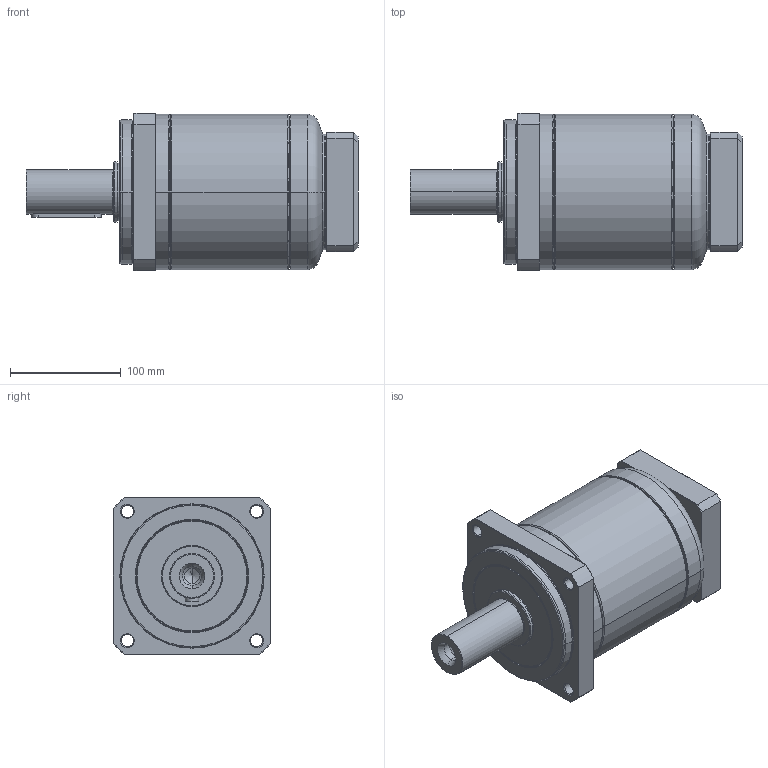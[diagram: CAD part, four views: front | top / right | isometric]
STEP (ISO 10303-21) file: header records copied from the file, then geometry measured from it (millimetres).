
FILE_DESCRIPTION((''),'2;1');
FILE_NAME('PA2-142_2ST_28-P0411600101_ASM','2016-05-11T',('d01943'),(''),'PRO/ENGINEER BY PARAMETRIC TECHNOLOGY CORPORATION, 2008410','PRO/ENGINEER BY PARAMETRIC TECHNOLOGY CORPORATION, 2008410','');
FILE_SCHEMA(('CONFIG_CONTROL_DESIGN'));
Length unit declared in the file: millimetre
Products named in the file (9): P1327510001; P0251500001; P1324500201; P0350500601; P0941502001; P0503600008; P0411600101; P1702500001; PA2-142_2ST_28-P0411600101_ASM
Assembly tree (8 placements, depth 2):
  PA2-142_2ST_28-P0411600101_ASM
    P1327510001
    P0251500001
    P1324500201
    P0350500601
    P0941502001
    P0503600008
    P0411600101
    P1702500001
Bounding box: 299.5 x 142 x 142 mm (x, y, z)
Volume: 2209135.8 mm3; surface area: 339106.7 mm2
Topology: 8 solids, 8 shells, 469 faces, 1024 edges, 590 vertices
Faces by surface type: cone 146, cylinder 133, torus 88, plane 86, bspline 16
Entity records: 17424 total; most frequent: CARTESIAN_POINT 6882, DIRECTION 2386, ORIENTED_EDGE 2008, AXIS2_PLACEMENT_3D 1017, EDGE_CURVE 1004, VERTEX_POINT 590, CIRCLE 547, EDGE_LOOP 532
